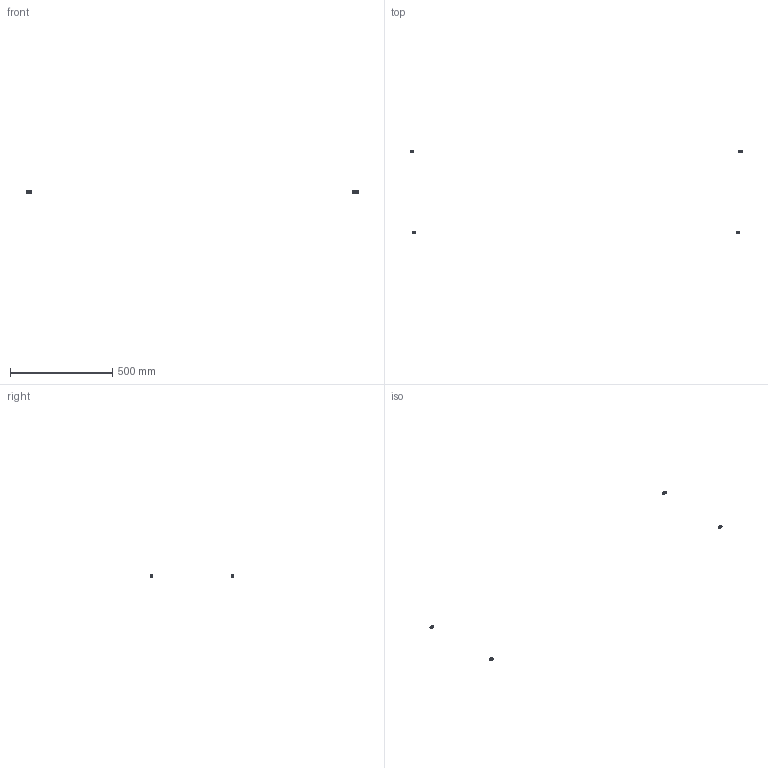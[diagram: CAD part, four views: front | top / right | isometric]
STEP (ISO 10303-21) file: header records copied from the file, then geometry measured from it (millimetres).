
FILE_DESCRIPTION(/* description */ (''),/* implementation_level */ '2;1');
FILE_NAME(/* name */ 'FR8D87~1',/* time_stamp */ '2014-02-14T19:36:33+01:00',/* author */ (''),/* organization */ (''),/* preprocessor_version */ 'ST-DEVELOPER v14',/* originating_system */ '',/* authorisation */ '');
FILE_SCHEMA (('AUTOMOTIVE_DESIGN'));
Length unit declared in the file: millimetre
Products named in the file (2): Document; washer DIN9021-like, form G, M5
Assembly tree (10 placements, depth 2):
  Document
    washer DIN9021-like, form G, M5  x10
Bounding box: 1620 x 408 x 11.98 mm (x, y, z)
Surface area: 5780.8 mm2 (no closed solid volume)
Topology: 0 solids, 120 shells, 120 faces, 400 edges, 400 vertices
Faces by surface type: bspline 80, plane 40
Entity records: 5555 total; most frequent: CARTESIAN_POINT 2807, B_SPLINE_CURVE_WITH_KNOTS 264, ORIENTED_EDGE 220, PCURVE 220, DEFINITIONAL_REPRESENTATION 220, SURFACE_CURVE 220, EDGE_CURVE 220, VERTEX_POINT 220
